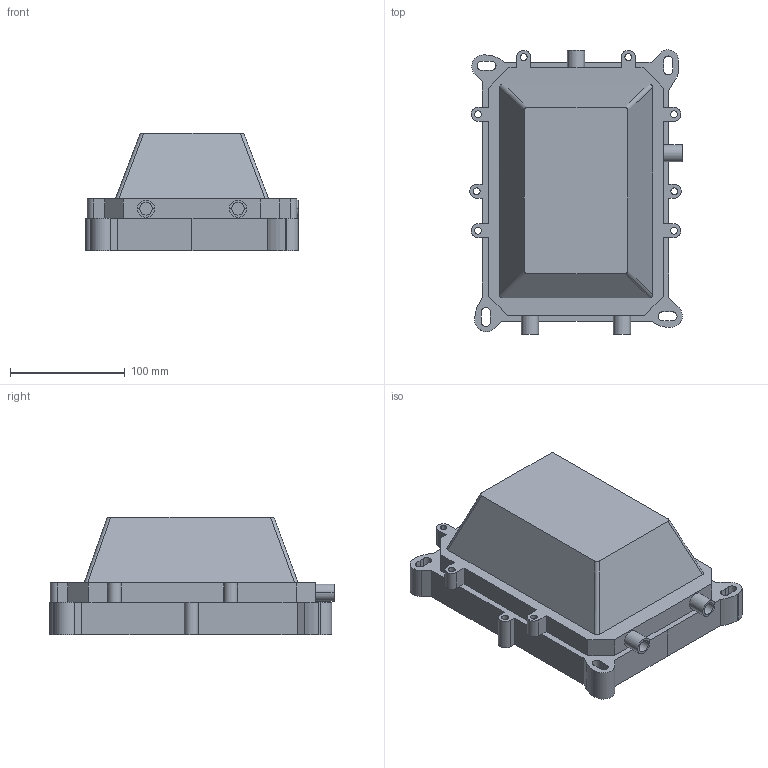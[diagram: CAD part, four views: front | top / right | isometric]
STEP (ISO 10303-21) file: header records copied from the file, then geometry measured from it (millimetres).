
FILE_DESCRIPTION (( 'STEP AP203' ), '1' );
FILE_NAME ('7117.STEP', '2018-08-17T10:40:00', ( '' ), ( '' ), 'SwSTEP 2.0', 'SolidWorks 2016', '' );
FILE_SCHEMA (( 'CONFIG_CONTROL_DESIGN' ));
Length unit declared in the file: millimetre
Products named in the file (1): 7117
Bounding box: 185 x 247.13 x 102 mm (x, y, z)
Volume: 2669768.7 mm3; surface area: 149186 mm2
Topology: 1 solids, 1 shells, 155 faces, 416 edges, 268 vertices
Faces by surface type: plane 94, cylinder 57, bspline 4
Entity records: 5145 total; most frequent: CARTESIAN_POINT 1068, ORIENTED_EDGE 832, DIRECTION 826, EDGE_CURVE 416, VECTOR 294, LINE 294, VERTEX_POINT 268, AXIS2_PLACEMENT_3D 266
